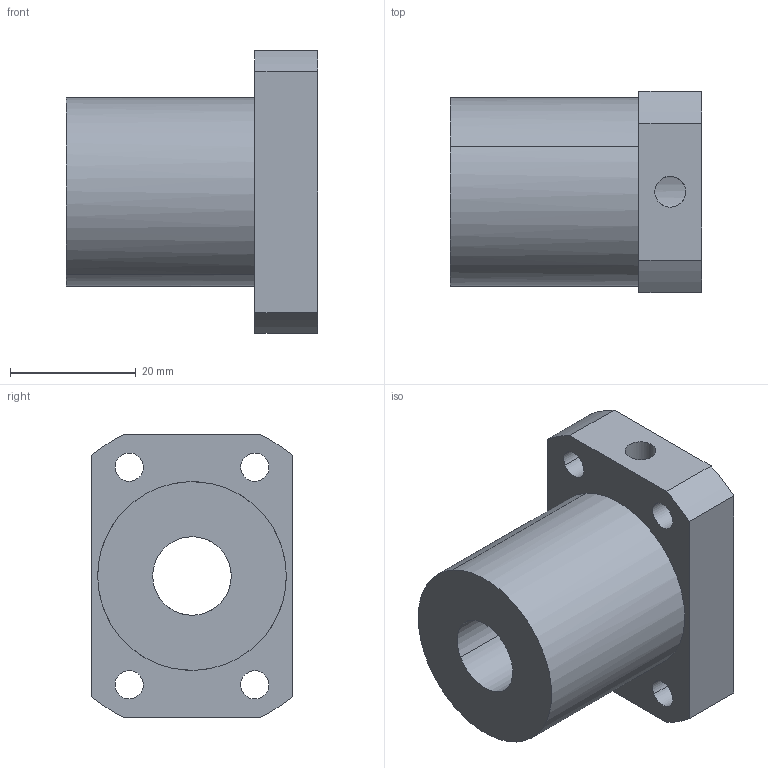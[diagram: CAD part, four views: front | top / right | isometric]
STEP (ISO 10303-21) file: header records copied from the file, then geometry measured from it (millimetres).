
FILE_DESCRIPTION(('CATIA V5 STEP Exchange'),'2;1');
FILE_NAME('C:\Users\aa\Documents\이댈\볼스크류\SFGR\링크X\SFGR1205K.stp','2018-11-16T04:59:45+00:00',('none'),('none'),'CATIA Version 5 Release 20 SP 7 (IN-10)','CATIA V5 STEP AP203','none');
FILE_SCHEMA(('CONFIG_CONTROL_DESIGN'));
Length unit declared in the file: millimetre
Products named in the file (1): Part1
Bounding box: 40 x 32 x 45 mm (x, y, z)
Volume: 28770.3 mm3; surface area: 9281.9 mm2
Topology: 1 solids, 1 shells, 39 faces, 102 edges, 69 vertices
Faces by surface type: cylinder 28, plane 11
Entity records: 1443 total; most frequent: CARTESIAN_POINT 458, ORIENTED_EDGE 204, DIRECTION 153, EDGE_CURVE 102, AXIS2_PLACEMENT_3D 78, VERTEX_POINT 69, EDGE_LOOP 57, CIRCLE 43
